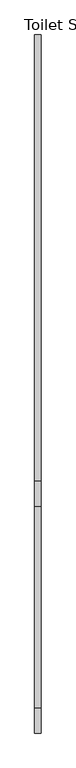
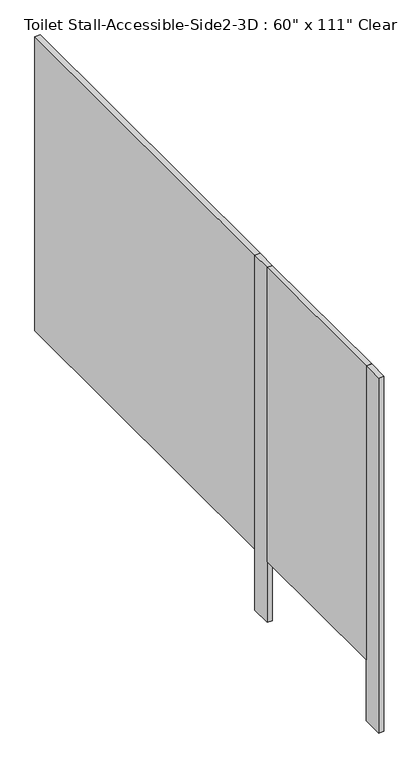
"""IFC4 building model written with IfcOpenShell, lengths in millimetres: proxy geometry."""

from ifc_helpers import new_model, si_unit, frame, origin, origin_with_axes, place, context, project, spatial, polyline, outline, extrude, source, transform, mapped, element, save


def proxy_be33b337(model_context):
    return source(origin(), model_context, "Body", "SweptSolid", [
        extrude(outline(polyline([(-661.8968462, -2847.975), (-687.2968462, -2847.975), (-687.2968462, -2035.175), (-661.8968462, -2035.175), (-661.8968462, -2847.975)])), frame((0.0, 0.0, 304.8), z_axis=(0.0, 0.0, 1.0), x_axis=(1.0, 0.0, 0.0)), (0.0, 0.0, 1.0), 1473.2),
        extrude(outline(polyline([(-661.8968462, -2949.575), (-687.2968462, -2949.575), (-687.2968462, -2847.975), (-661.8968462, -2847.975), (-661.8968462, -2949.575)])), origin_with_axes(), (0.0, 0.0, 1.0), 1778.0),
        extrude(outline(polyline([(-661.8968462, -2035.175), (-687.2968462, -2035.175), (-687.2968462, -1933.575), (-661.8968462, -1933.575), (-661.8968462, -2035.175)])), origin_with_axes(), (0.0, 0.0, 1.0), 1778.0),
        extrude(outline(polyline([(-687.2968462, -1933.575), (-687.2968462, -130.175), (-661.8968462, -130.175), (-661.8968462, -1933.575), (-687.2968462, -1933.575)])), frame((0.0, 0.0, 304.8), z_axis=(0.0, 0.0, 1.0), x_axis=(1.0, 0.0, 0.0)), (0.0, 0.0, 1.0), 1473.2),
    ])


if __name__ == "__main__":
    model = new_model("IFC4")
    model_context = context("Model", 3, world=origin())
    ifc_project = project(units=[si_unit("LENGTHUNIT", "METRE", prefix="MILLI")], contexts=[model_context])
    site = spatial("IfcSite", under=ifc_project)
    building = spatial("IfcBuilding", under=site)
    placement = place(None, origin())
    proxy_shape = proxy_be33b337(model_context)
    element("IfcBuildingElementProxy", 1, Name="Toilet Stall-Accessible-Side2-3D : 60\" x 111\" Clear", ObjectType="Toilet Stall-Accessible-Side2-3D : 60\" x 111\" Clear", at=placement, inside=building, context=model_context, shape_type="MappedRepresentation", body=[
        mapped(proxy_shape, transform((0.0, 0.0, 0.0), x_axis=(1.0, 0.0, 0.0), y_axis=(0.0, 1.0, 0.0), z_axis=(0.0, 0.0, 1.0))),
    ])
    save(model, "model.ifc")
